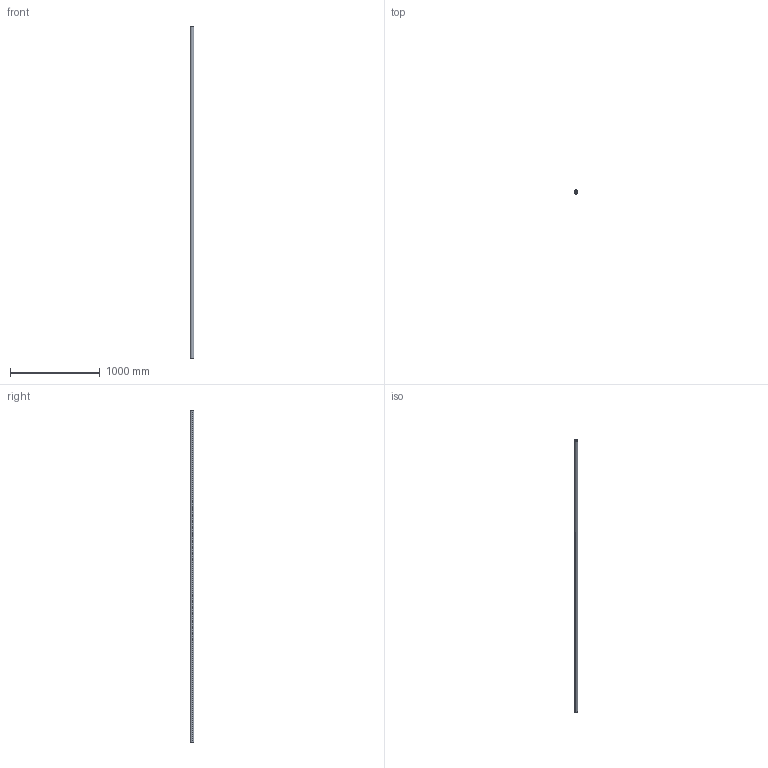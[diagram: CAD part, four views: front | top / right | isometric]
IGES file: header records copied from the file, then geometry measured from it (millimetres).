
Start section: SolidWorks IGES file using analytic representation for surfaces
Global section: file name: C:\Users\IanO\Desktop\L1771_v2\L1771.40_v2\L1771.40_v2_20230705_IGES\L1771.40-3700.igs; native system: SolidWorks 2019; preprocessor: SolidWorks 2019; author: IanO; date: 230705.162039; units: millimetre
Bounding box: 40 x 40 x 3700 mm (x, y, z)
Surface area: 791706.5 mm2 (no closed solid volume)
Topology: 0 solids, 0 shells, 6 faces, 272 edges, 272 vertices
Faces by surface type: revolution 4, bspline 2
